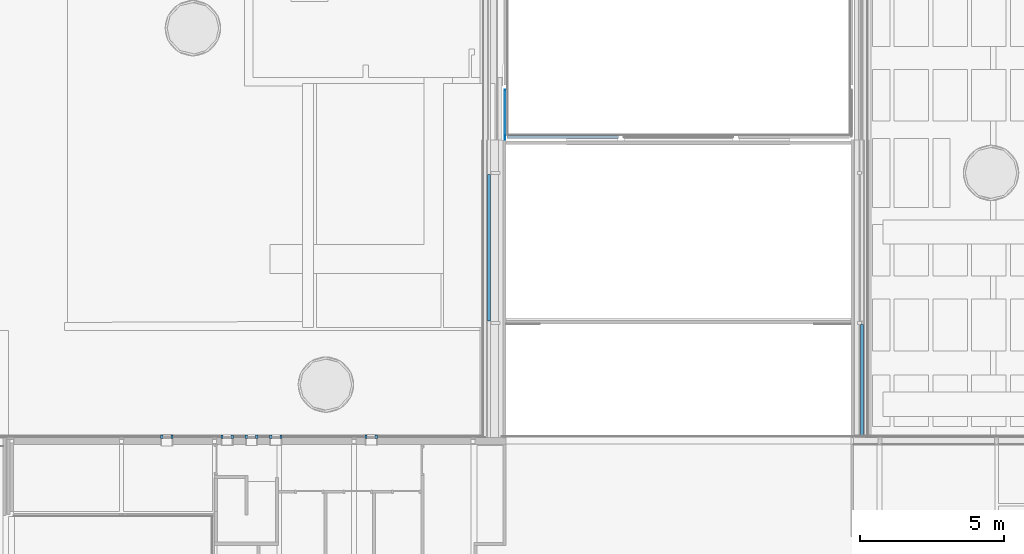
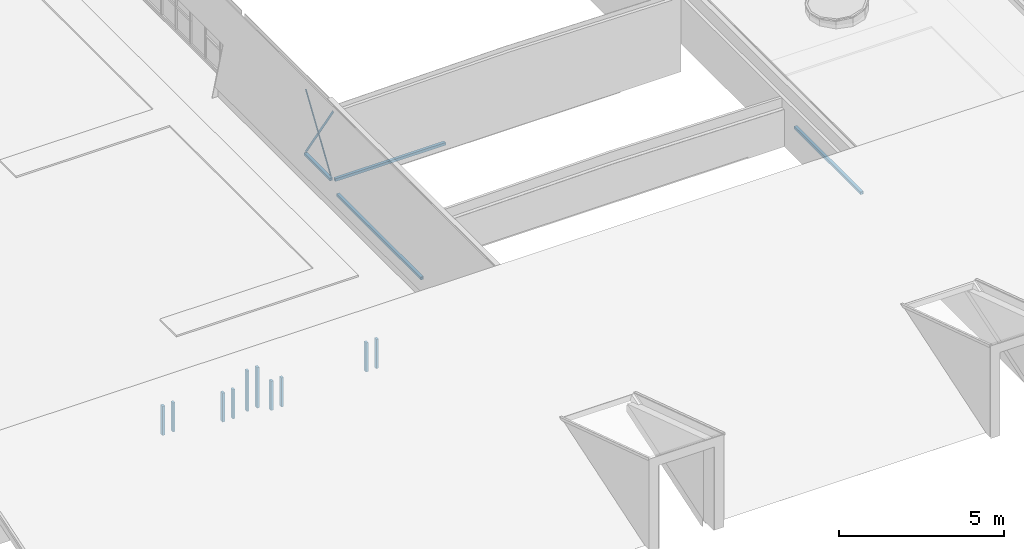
# One storey, part 3 of 66: 10 members, 6 beams, 5 elements without a shape of their own.
"""IFC2X3 building model written with IfcOpenShell, lengths in millimetres."""

from ifc_helpers import new_model, entity, si_unit, converted_unit, derived_unit, direction, frame, frame_2d, origin, origin_2d_with_axis, place, context, subcontext, project, spatial, rectangle, extrude, boolean, source, transform, mapped, material, type_object, type_shapes, element, aggregate, save


model = new_model("IFC2X3")

# Units and contexts
model_context = context("Model", 3, precision=0.01, world=origin(), true_north=direction((6.12303176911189e-17, 1.0)))
body_context = subcontext(model_context, "Body", "Model", "MODEL_VIEW")
ifc_project = project(units=[si_unit("LENGTHUNIT", "METRE", prefix="MILLI"), si_unit("AREAUNIT", "SQUARE_METRE"), si_unit("VOLUMEUNIT", "CUBIC_METRE"), converted_unit("PLANEANGLEUNIT", "DEGREE", entity("IfcRatioMeasure", 0.0174532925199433), si_unit("PLANEANGLEUNIT", "RADIAN"), dimensions=[0, 0, 0, 0, 0, 0, 0]), si_unit("MASSUNIT", "GRAM", prefix="KILO"), derived_unit("MASSDENSITYUNIT", [(si_unit("MASSUNIT", "GRAM", prefix="KILO"), 1), (si_unit("LENGTHUNIT", "METRE"), -3)]), derived_unit("MOMENTOFINERTIAUNIT", [(si_unit("LENGTHUNIT", "METRE"), 4)]), si_unit("TIMEUNIT", "SECOND"), si_unit("FREQUENCYUNIT", "HERTZ"), si_unit("THERMODYNAMICTEMPERATUREUNIT", "DEGREE_CELSIUS"), derived_unit("THERMALTRANSMITTANCEUNIT", [(si_unit("MASSUNIT", "GRAM", prefix="KILO"), 1), (si_unit("THERMODYNAMICTEMPERATUREUNIT", "KELVIN"), -1), (si_unit("TIMEUNIT", "SECOND"), -3)]), derived_unit("VOLUMETRICFLOWRATEUNIT", [(si_unit("LENGTHUNIT", "METRE"), 3), (si_unit("TIMEUNIT", "SECOND"), -1)]), si_unit("ELECTRICCURRENTUNIT", "AMPERE"), si_unit("ELECTRICVOLTAGEUNIT", "VOLT"), si_unit("POWERUNIT", "WATT"), si_unit("FORCEUNIT", "NEWTON", prefix="KILO"), si_unit("ILLUMINANCEUNIT", "LUX"), si_unit("LUMINOUSFLUXUNIT", "LUMEN"), si_unit("LUMINOUSINTENSITYUNIT", "CANDELA"), derived_unit("USERDEFINED", [(si_unit("MASSUNIT", "GRAM", prefix="KILO"), -1), (si_unit("LENGTHUNIT", "METRE"), -2), (si_unit("TIMEUNIT", "SECOND"), 3), (si_unit("LUMINOUSFLUXUNIT", "LUMEN"), 1)]), derived_unit("LINEARVELOCITYUNIT", [(si_unit("LENGTHUNIT", "METRE"), 1), (si_unit("TIMEUNIT", "SECOND"), -1)]), si_unit("PRESSUREUNIT", "PASCAL"), derived_unit("USERDEFINED", [(si_unit("LENGTHUNIT", "METRE"), -2), (si_unit("MASSUNIT", "GRAM", prefix="KILO"), 1), (si_unit("TIMEUNIT", "SECOND"), -2)]), derived_unit("LINEARFORCEUNIT", [(si_unit("MASSUNIT", "GRAM", prefix="KILO"), 1), (si_unit("LENGTHUNIT", "METRE"), 1), (si_unit("TIMEUNIT", "SECOND"), -2), (si_unit("LENGTHUNIT", "METRE"), -1)]), derived_unit("PLANARFORCEUNIT", [(si_unit("MASSUNIT", "GRAM", prefix="KILO"), 1), (si_unit("LENGTHUNIT", "METRE"), 1), (si_unit("TIMEUNIT", "SECOND"), -2), (si_unit("LENGTHUNIT", "METRE"), -2)])], contexts=[model_context])

# Site, building, storey
site_placement = place(None, origin())
site = spatial("IfcSite", under=ifc_project, at=site_placement, Name="Default", CompositionType="ELEMENT")
building_placement = place(site_placement, origin())
building = spatial("IfcBuilding", under=site, at=building_placement, Name="-", CompositionType="ELEMENT")
storey_placement = place(building_placement, frame((0.0, 0.0, 3070.0)))
storey = spatial("IfcBuildingStorey", under=building, at=storey_placement, Name="01 eerste verdieping", CompositionType="ELEMENT", Elevation=3070.00000000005)

# Curtain wall, member
curtain_wall_type = type_object("IfcCurtainWallType", Name="Curtain Wall:NLRS_31_WIN_UN_houten kozijn vrij indeelbaar_gen_aly", PredefinedType="NOTDEFINED")
curtain_wall_1_placement = place(storey_placement, frame((0.0, 0.0, -3070.0)))
curtain_wall_1 = element("IfcCurtainWall", 1, at=curtain_wall_1_placement, inside=storey, type_object=curtain_wall_type, Name="Curtain Wall:NLRS_31_WIN_UN_houten kozijn vrij indeelbaar_gen_aly", ObjectType="Curtain Wall:NLRS_31_WIN_UN_houten kozijn vrij indeelbaar_gen_aly")
ifc_material_1 = material(Name="n6_kunststof_RAL 7035")
member_type_1 = type_object("IfcMemberType", Name="Rectangular Mullion:81x120", PredefinedType="MULLION", material=ifc_material_1)
shared_shape_1 = source(origin(), body_context, "Body", "SweptSolid", [
    extrude(rectangle(XDim=120.0, YDim=81.0, at=origin_2d_with_axis()), frame((-40.5, 0.0, -1077.0), z_axis=(0.0, 0.0, 1.0), x_axis=(0.0, -1.0, 0.0)), (0.0, 0.0, 1.0), 1077.00000000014),
])
type_shapes(member_type_1, [shared_shape_1])
member_1_placement = place(storey_placement, frame((17185.0, 10417.1240954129, 1427.0), z_axis=(0.0, 0.0, -1.0), x_axis=(1.0, 0.0, 0.0)))
member_1 = element("IfcMember", 2, at=member_1_placement, type_object=member_type_1, material=ifc_material_1, Name="Rectangular Mullion:81x120", ObjectType="Rectangular Mullion:81x120", context=body_context, shape_type="MappedRepresentation", body=[
    mapped(shared_shape_1, transform((0.0, 0.0, 0.0), scale=1.0)),
])

curtain_wall_2_placement = place(storey_placement, frame((0.0, 0.0, -3070.0)))
curtain_wall_2 = element("IfcCurtainWall", 3, at=curtain_wall_2_placement, inside=storey, type_object=curtain_wall_type, Name="Curtain Wall:NLRS_31_WIN_UN_houten kozijn vrij indeelbaar_gen_aly", ObjectType="Curtain Wall:NLRS_31_WIN_UN_houten kozijn vrij indeelbaar_gen_aly")
member_2_placement = place(storey_placement, frame((19281.6948343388, 10417.1240954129, 1181.0), z_axis=(0.0, 0.0, -1.0), x_axis=(1.0, 0.0, 0.0)))
member_2 = element("IfcMember", 4, at=member_2_placement, type_object=member_type_1, material=ifc_material_1, Name="Rectangular Mullion:81x120", ObjectType="Rectangular Mullion:81x120", context=body_context, shape_type="MappedRepresentation", body=[
    mapped(shared_shape_1, transform((0.0, 0.0, 0.0), scale=1.0)),
])

curtain_wall_3_placement = place(storey_placement, frame((0.0, 0.0, -3070.0)))
curtain_wall_3 = element("IfcCurtainWall", 5, at=curtain_wall_3_placement, inside=storey, type_object=curtain_wall_type, Name="Curtain Wall:NLRS_31_WIN_UN_houten kozijn vrij indeelbaar_gen_aly", ObjectType="Curtain Wall:NLRS_31_WIN_UN_houten kozijn vrij indeelbaar_gen_aly")
member_3_placement = place(storey_placement, frame((20981.6948343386, 10417.1240954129, 1021.0), z_axis=(0.0, 0.0, -1.0), x_axis=(1.0, 0.0, 0.0)))
member_3 = element("IfcMember", 6, at=member_3_placement, type_object=member_type_1, material=ifc_material_1, Name="Rectangular Mullion:81x120", ObjectType="Rectangular Mullion:81x120", context=body_context, shape_type="MappedRepresentation", body=[
    mapped(shared_shape_1, transform((0.0, 0.0, 0.0), scale=1.0)),
])

curtain_wall_4_placement = place(storey_placement, frame((0.0, 0.0, -3070.0)))
curtain_wall_4 = element("IfcCurtainWall", 7, at=curtain_wall_4_placement, inside=storey, type_object=curtain_wall_type, Name="Curtain Wall:NLRS_31_WIN_UN_houten kozijn vrij indeelbaar_gen_aly", ObjectType="Curtain Wall:NLRS_31_WIN_UN_houten kozijn vrij indeelbaar_gen_aly")
member_4_placement = place(storey_placement, frame((24300.0, 10417.1240954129, 1281.0), z_axis=(0.0, 0.0, -1.0), x_axis=(1.0, 0.0, 0.0)))
member_4 = element("IfcMember", 8, at=member_4_placement, type_object=member_type_1, material=ifc_material_1, Name="Rectangular Mullion:81x120", ObjectType="Rectangular Mullion:81x120", context=body_context, shape_type="MappedRepresentation", body=[
    mapped(shared_shape_1, transform((0.0, 0.0, 0.0), scale=1.0)),
])

# Member
member_type_2 = type_object("IfcMemberType", Name="Rectangular Mullion:81x120", PredefinedType="MULLION", material=ifc_material_1)
shared_shape_2 = source(origin(), body_context, "Body", "SweptSolid", [
    extrude(rectangle(XDim=120.0, YDim=81.0, at=origin_2d_with_axis()), frame((-40.5, 0.0, -1077.0), z_axis=(0.0, 0.0, 1.0), x_axis=(0.0, -1.0, 0.0)), (0.0, 0.0, 1.0), 1077.00000000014),
])
type_shapes(member_type_2, [shared_shape_2])
member_5_placement = place(storey_placement, frame((16745.0, 10417.1240954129, 2504.0), z_axis=(0.0, 0.0, 1.0), x_axis=(-1.0, 0.0, 0.0)))
member_5 = element("IfcMember", 9, at=member_5_placement, type_object=member_type_2, material=ifc_material_1, Name="Rectangular Mullion:81x120", ObjectType="Rectangular Mullion:81x120", context=body_context, shape_type="MappedRepresentation", body=[
    mapped(shared_shape_2, transform((0.0, 0.0, 0.0), scale=1.0)),
])

aggregate(curtain_wall_1, [member_1, member_5])

member_6_placement = place(storey_placement, frame((18841.6948343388, 10417.1240954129, 2258.0), z_axis=(0.0, 0.0, 1.0), x_axis=(-1.0, 0.0, 0.0)))
member_6 = element("IfcMember", 10, at=member_6_placement, type_object=member_type_2, material=ifc_material_1, Name="Rectangular Mullion:81x120", ObjectType="Rectangular Mullion:81x120", context=body_context, shape_type="MappedRepresentation", body=[
    mapped(shared_shape_2, transform((0.0, 0.0, 0.0), scale=1.0)),
])

aggregate(curtain_wall_2, [member_2, member_6])

member_7_placement = place(storey_placement, frame((20541.6948343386, 10417.1240954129, 2098.0), z_axis=(0.0, 0.0, 1.0), x_axis=(-1.0, 0.0, 0.0)))
member_7 = element("IfcMember", 11, at=member_7_placement, type_object=member_type_2, material=ifc_material_1, Name="Rectangular Mullion:81x120", ObjectType="Rectangular Mullion:81x120", context=body_context, shape_type="MappedRepresentation", body=[
    mapped(shared_shape_2, transform((0.0, 0.0, 0.0), scale=1.0)),
])

aggregate(curtain_wall_3, [member_3, member_7])

member_8_placement = place(storey_placement, frame((23860.0, 10417.1240954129, 2358.0), z_axis=(0.0, 0.0, 1.0), x_axis=(-1.0, 0.0, 0.0)))
member_8 = element("IfcMember", 12, at=member_8_placement, type_object=member_type_2, material=ifc_material_1, Name="Rectangular Mullion:81x120", ObjectType="Rectangular Mullion:81x120", context=body_context, shape_type="MappedRepresentation", body=[
    mapped(shared_shape_2, transform((0.0, 0.0, 0.0), scale=1.0)),
])

aggregate(curtain_wall_4, [member_4, member_8])

# Beams
ifc_material_2 = material(Name="NLRS_h3_staal_verzinkt")
beam_type_1 = type_object("IfcBeamType", Name="NLRS_28_SF_UN_kokerprofielen_gen_aly:K100/4", PredefinedType="NOTDEFINED")
beam_1_placement = place(storey_placement, frame((28747.0, 22567.5320880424, 345.0), z_axis=(0.0, 0.0, 1.0), x_axis=(0.0, -1.0, 0.0)))
element("IfcBeam", 13, at=beam_1_placement, inside=storey, type_object=beam_type_1, material=ifc_material_2, Name="NLRS_28_SF_UN_kokerprofielen_gen_aly:K100/4", ObjectType="NLRS_28_SF_UN_kokerprofielen_gen_aly:K100/4", context=body_context, shape_type="CSG", body=[
    boolean("DIFFERENCE", extrude(rectangle(XDim=100.0, YDim=99.9999999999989, at=frame_2d((0.0, -2.16715534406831e-12), x_axis=(1.0, 0.0))), frame((68.4118375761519, 0.0, -50.0), z_axis=(1.0, 0.0, 0.0), x_axis=(0.0, 0.0, -1.0)), (0.0, 0.0, 1.0), 1570.10000000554), extrude(rectangle(XDim=92.0000000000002, YDim=92.0000000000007, at=frame_2d((2.16715534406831e-12, 2.70006239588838e-13), x_axis=(0.0, 1.0))), frame((1638.51183758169, 0.0, -50.0), z_axis=(-1.0, 0.0, 0.0), x_axis=(0.0, 1.0, 0.0)), (0.0, 0.0, 1.0), 1570.10000000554)),
])
beam_2_placement = place(storey_placement, frame((28747.0, 20866.3202504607, 345.0)))
element("IfcBeam", 14, at=beam_2_placement, inside=storey, type_object=beam_type_1, material=ifc_material_2, Name="NLRS_28_SF_UN_kokerprofielen_gen_aly:K100/4", ObjectType="NLRS_28_SF_UN_kokerprofielen_gen_aly:K100/4", context=body_context, shape_type="CSG", body=[
    boolean("DIFFERENCE", extrude(rectangle(XDim=100.0, YDim=99.9999999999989, at=frame_2d((-5.40012479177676e-13, 1.08286712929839e-11), x_axis=(1.0, 0.0))), frame((83.6999999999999, 0.0, -50.0), z_axis=(1.0, 0.0, 0.0), x_axis=(0.0, 0.0, -1.0)), (0.0, 0.0, 1.0), 3859.6), extrude(rectangle(XDim=92.0000000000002, YDim=92.0000000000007, at=frame_2d((2.16715534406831e-12, 2.70006239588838e-13), x_axis=(0.0, 1.0))), frame((3943.3, 0.0, -50.0), z_axis=(-1.0, 0.0, 0.0), x_axis=(0.0, 1.0, 0.0)), (0.0, 0.0, 1.0), 3859.6)),
])
beam_3_placement = place(storey_placement, frame((28186.4481330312, 19616.3202504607, 810.0), z_axis=(0.0, 0.0, 1.0), x_axis=(0.0, -1.0, 0.0)))
element("IfcBeam", 15, at=beam_3_placement, inside=storey, type_object=beam_type_1, material=ifc_material_2, Name="NLRS_28_SF_UN_kokerprofielen_gen_aly:K100/4", ObjectType="NLRS_28_SF_UN_kokerprofielen_gen_aly:K100/4", context=body_context, shape_type="CSG", body=[
    boolean("DIFFERENCE", extrude(rectangle(XDim=100.0, YDim=99.9999999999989, at=frame_2d((0.0, -2.16715534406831e-12), x_axis=(1.0, 0.0))), frame((61.4521200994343, 0.0, -50.0), z_axis=(1.0, 0.0, 0.0), x_axis=(0.0, 0.0, -1.0)), (0.0, 0.0, 1.0), 5105.84787990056), extrude(rectangle(XDim=92.0000000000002, YDim=92.0000000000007, at=frame_2d((-2.16715534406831e-12, 2.70006239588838e-13), x_axis=(0.0, 1.0))), frame((5167.3, 0.0, -50.0), z_axis=(-1.0, 0.0, 0.0), x_axis=(0.0, 1.0, 0.0)), (0.0, 0.0, 1.0), 5105.84787990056)),
])
beam_4_placement = place(storey_placement, frame((41180.6260617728, 15517.5681303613, 1919.57579493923), z_axis=(0.0, 0.0, 1.0), x_axis=(0.0, -1.0, 0.0)))
element("IfcBeam", 16, at=beam_4_placement, inside=storey, type_object=beam_type_1, material=ifc_material_2, Name="NLRS_28_SF_UN_kokerprofielen_gen_aly:K100/4", ObjectType="NLRS_28_SF_UN_kokerprofielen_gen_aly:K100/4", context=body_context, shape_type="CSG", body=[
    boolean("DIFFERENCE", extrude(rectangle(XDim=100.0, YDim=99.9999999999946, at=frame_2d((-5.43565192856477e-13, 0.0), x_axis=(1.0, 0.0))), frame((1181.24787990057, 0.0, -50.0), z_axis=(1.0, 0.0, 0.0), x_axis=(0.0, 0.0, -1.0)), (0.0, 0.0, 1.0), 4022.69615505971), extrude(rectangle(XDim=91.9999999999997, YDim=91.9999999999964, at=frame_2d((0.0, -5.40012479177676e-13), x_axis=(0.0, 1.0))), frame((1181.24787990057, 0.0, -50.0), z_axis=(1.0, 0.0, 0.0), x_axis=(0.0, -1.0, 0.0)), (0.0, 0.0, 1.0), 4022.69615505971)),
])

# Curtain wall, members
curtain_wall_5_placement = place(storey_placement, frame((0.0, 0.0, -3070.0)))
curtain_wall_5 = element("IfcCurtainWall", 17, at=curtain_wall_5_placement, inside=storey, type_object=curtain_wall_type, Name="Curtain Wall:NLRS_31_WIN_UN_houten kozijn vrij indeelbaar_gen_aly", ObjectType="Curtain Wall:NLRS_31_WIN_UN_houten kozijn vrij indeelbaar_gen_aly")
member_type_3 = type_object("IfcMemberType", Name="Rectangular Mullion:81x120", PredefinedType="MULLION", material=ifc_material_1)
shared_shape_3 = source(origin(), body_context, "Body", "SweptSolid", [
    extrude(rectangle(XDim=120.0, YDim=81.0, at=origin_2d_with_axis()), frame((-40.5, 0.0, -1496.0), z_axis=(0.0, 0.0, 1.0), x_axis=(0.0, -1.0, 0.0)), (0.0, 0.0, 1.0), 1496.0),
])
type_shapes(member_type_3, [shared_shape_3])
member_9_placement = place(storey_placement, frame((20131.6948343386, 10417.1240954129, 1281.0), z_axis=(0.0, 0.0, -1.0), x_axis=(1.0, 0.0, 0.0)))
member_9 = element("IfcMember", 18, at=member_9_placement, type_object=member_type_3, material=ifc_material_1, Name="Rectangular Mullion:81x120", ObjectType="Rectangular Mullion:81x120", context=body_context, shape_type="MappedRepresentation", body=[
    mapped(shared_shape_3, transform((0.0, 0.0, 0.0), scale=1.0)),
])
member_type_4 = type_object("IfcMemberType", Name="Rectangular Mullion:81x120", PredefinedType="MULLION", material=ifc_material_1)
shared_shape_4 = source(origin(), body_context, "Body", "SweptSolid", [
    extrude(rectangle(XDim=120.0, YDim=81.0, at=origin_2d_with_axis()), frame((-40.5, 0.0, -1496.0), z_axis=(0.0, 0.0, 1.0), x_axis=(0.0, -1.0, 0.0)), (0.0, 0.0, 1.0), 1496.0),
])
type_shapes(member_type_4, [shared_shape_4])
member_10_placement = place(storey_placement, frame((19691.6948343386, 10417.1240954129, 2777.0), z_axis=(0.0, 0.0, 1.0), x_axis=(-1.0, 0.0, 0.0)))
member_10 = element("IfcMember", 19, at=member_10_placement, type_object=member_type_4, material=ifc_material_1, Name="Rectangular Mullion:81x120", ObjectType="Rectangular Mullion:81x120", context=body_context, shape_type="MappedRepresentation", body=[
    mapped(shared_shape_4, transform((0.0, 0.0, 0.0), scale=1.0)),
])
aggregate(curtain_wall_5, [member_9, member_10])

# Beams
beam_type_2 = type_object("IfcBeamType", Name="Stripstaal_staand_ITX:8x80", PredefinedType="NOTDEFINED")
beam_5_placement = place(storey_placement, frame((28747.0, 22567.5320880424, 2900.0), z_axis=(1.0, 0.0, 0.0), x_axis=(0.0, -0.553341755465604, -0.832954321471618)))
element("IfcBeam", 20, at=beam_5_placement, inside=storey, type_object=beam_type_2, material=ifc_material_2, Name="Stripstaal_staand_ITX:8x80", ObjectType="Stripstaal_staand_ITX:8x80", context=body_context, shape_type="SweptSolid", body=[
    extrude(rectangle(XDim=79.9999999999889, YDim=7.99999999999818, at=frame_2d((0.0, 0.0), x_axis=(0.0, 1.0))), frame((233.807809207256, 40.0, 0.0), z_axis=(1.0, 0.0, 0.0), x_axis=(0.0, 0.0, -1.0)), (0.0, 0.0, 1.0), 2737.56454982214),
])
beam_6_placement = place(storey_placement, frame((28747.0, 22567.5320880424, 300.0), z_axis=(1.0, 0.0, 0.0), x_axis=(0.0, -0.553341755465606, 0.832954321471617)))
element("IfcBeam", 21, at=beam_6_placement, inside=storey, type_object=beam_type_2, material=ifc_material_2, Name="Stripstaal_staand_ITX:8x80", ObjectType="Stripstaal_staand_ITX:8x80", context=body_context, shape_type="SweptSolid", body=[
    extrude(rectangle(XDim=79.9999999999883, YDim=7.99999999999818, at=frame_2d((0.0, 0.0), x_axis=(0.0, 1.0))), frame((113.382511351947, 40.0, 0.0), z_axis=(1.0, 0.0, 0.0), x_axis=(0.0, 0.0, -1.0)), (0.0, 0.0, 1.0), 3008.0371547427),
])

save(model, "model.ifc")
